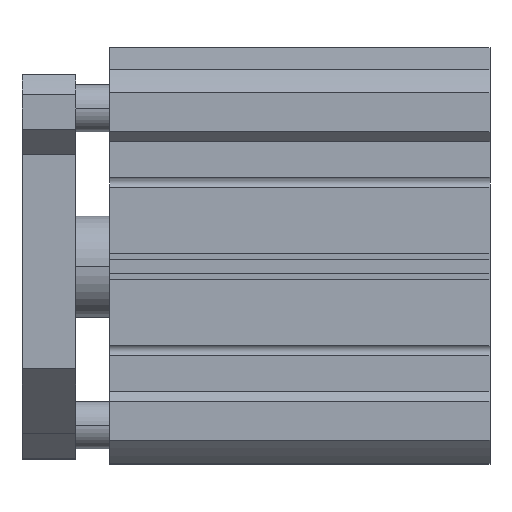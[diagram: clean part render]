
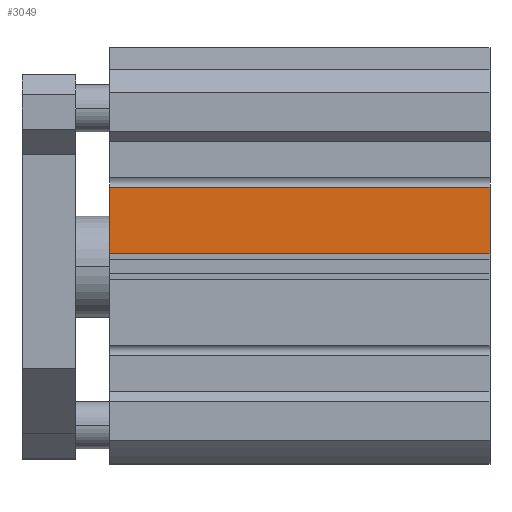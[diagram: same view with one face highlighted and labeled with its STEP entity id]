
A CAD part, top view. The second image highlights one B-rep face of the part: STEP entity #3049.
In plain terms, the highlighted planar face has unit normal (0, 0, 1).
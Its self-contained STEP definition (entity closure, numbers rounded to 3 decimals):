
#75 = LINE ( 'NONE', #197, #3166 ) ;
#197 = CARTESIAN_POINT ( 'NONE',  ( 0., 23.5, 55.5 ) ) ;
#212 = DIRECTION ( 'NONE',  ( -1., 0., 0. ) ) ;
#265 = VERTEX_POINT ( 'NONE', #1444 ) ;
#312 = LINE ( 'NONE', #1649, #5662 ) ;
#755 = CARTESIAN_POINT ( 'NONE',  ( 113., 4., 55.5 ) ) ;
#872 = EDGE_CURVE ( 'NONE', #4241, #2620, #75, .T. ) ;
#1109 = ORIENTED_EDGE ( 'NONE', *, *, #872, .T. ) ;
#1160 = DIRECTION ( 'NONE',  ( -1., 0., 0. ) ) ;
#1418 = ORIENTED_EDGE ( 'NONE', *, *, #3503, .F. ) ;
#1420 = AXIS2_PLACEMENT_3D ( 'NONE', #5506, #2211, #4519 ) ;
#1444 = CARTESIAN_POINT ( 'NONE',  ( 113., 4., 55.5 ) ) ;
#1649 = CARTESIAN_POINT ( 'NONE',  ( 113., 23.5, 55.5 ) ) ;
#1840 = ORIENTED_EDGE ( 'NONE', *, *, #3489, .F. ) ;
#1930 = EDGE_LOOP ( 'NONE', ( #1109, #1840, #1418, #3417 ) ) ;
#2211 = DIRECTION ( 'NONE',  ( 0., 0., -1. ) ) ;
#2215 = VECTOR ( 'NONE', #1160, 1000. ) ;
#2620 = VERTEX_POINT ( 'NONE', #5119 ) ;
#2703 = CARTESIAN_POINT ( 'NONE',  ( 0., 23.5, 55.5 ) ) ;
#3049 = ADVANCED_FACE ( 'NONE', ( #5041 ), #3648, .F. ) ;
#3166 = VECTOR ( 'NONE', #4425, 1000. ) ;
#3417 = ORIENTED_EDGE ( 'NONE', *, *, #5788, .T. ) ;
#3489 = EDGE_CURVE ( 'NONE', #265, #2620, #4537, .T. ) ;
#3503 = EDGE_CURVE ( 'NONE', #4629, #265, #312, .T. ) ;
#3582 = VECTOR ( 'NONE', #212, 1000. ) ;
#3588 = DIRECTION ( 'NONE',  ( 0., -1., 0. ) ) ;
#3648 = PLANE ( 'NONE',  #1420 ) ;
#3882 = CARTESIAN_POINT ( 'NONE',  ( 113., 23.5, 55.5 ) ) ;
#3907 = CARTESIAN_POINT ( 'NONE',  ( 113., 23.5, 55.5 ) ) ;
#3969 = LINE ( 'NONE', #3882, #3582 ) ;
#4241 = VERTEX_POINT ( 'NONE', #2703 ) ;
#4425 = DIRECTION ( 'NONE',  ( 0., -1., 0. ) ) ;
#4519 = DIRECTION ( 'NONE',  ( 0., -1., 0. ) ) ;
#4537 = LINE ( 'NONE', #755, #2215 ) ;
#4629 = VERTEX_POINT ( 'NONE', #3907 ) ;
#5041 = FACE_OUTER_BOUND ( 'NONE', #1930, .T. ) ;
#5119 = CARTESIAN_POINT ( 'NONE',  ( 0., 4., 55.5 ) ) ;
#5506 = CARTESIAN_POINT ( 'NONE',  ( 113., 23.5, 55.5 ) ) ;
#5662 = VECTOR ( 'NONE', #3588, 1000. ) ;
#5788 = EDGE_CURVE ( 'NONE', #4629, #4241, #3969, .T. ) ;
